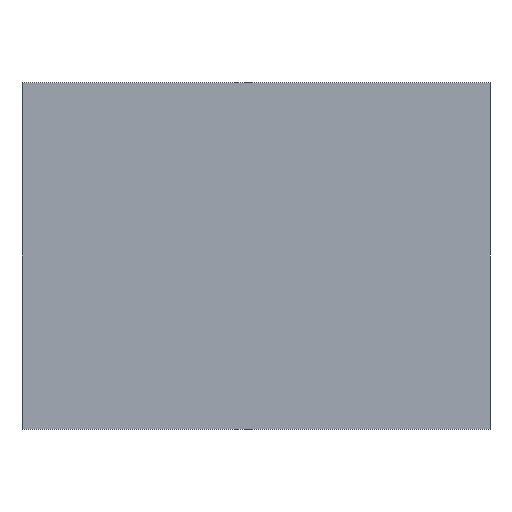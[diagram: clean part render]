
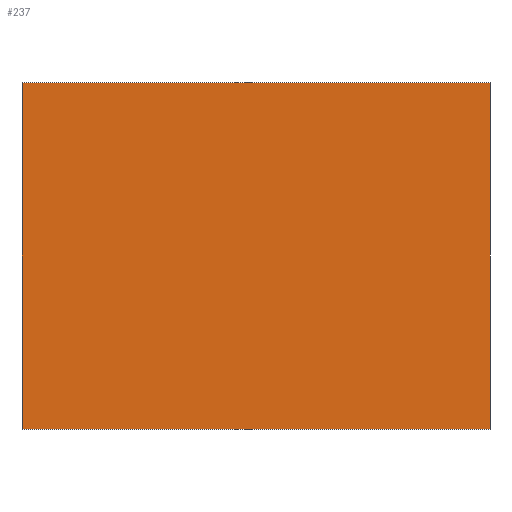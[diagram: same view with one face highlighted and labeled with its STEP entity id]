
A CAD part, front view. The second image highlights one B-rep face of the part: STEP entity #237.
In plain terms, the highlighted planar face has unit normal (0, -1, 0).
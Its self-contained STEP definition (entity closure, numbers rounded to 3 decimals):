
#24 = VERTEX_POINT('',#25);
#25 = CARTESIAN_POINT('',(-60.5,18.5,136.74));
#32 = PLANE('',#33);
#33 = AXIS2_PLACEMENT_3D('',#34,#35,#36);
#34 = CARTESIAN_POINT('',(-60.5,18.5,47.26));
#35 = DIRECTION('',(1.,0.,0.));
#36 = DIRECTION('',(0.,0.,1.));
#44 = PLANE('',#45);
#45 = AXIS2_PLACEMENT_3D('',#46,#47,#48);
#46 = CARTESIAN_POINT('',(-60.5,18.5,136.74));
#47 = DIRECTION('',(0.,0.,1.));
#48 = DIRECTION('',(1.,0.,0.));
#85 = VERTEX_POINT('',#86);
#86 = CARTESIAN_POINT('',(-60.5,18.5,47.26));
#100 = PLANE('',#101);
#101 = AXIS2_PLACEMENT_3D('',#102,#103,#104);
#102 = CARTESIAN_POINT('',(-60.5,18.5,47.26));
#103 = DIRECTION('',(0.,0.,1.));
#104 = DIRECTION('',(1.,0.,0.));
#112 = EDGE_CURVE('',#85,#24,#113,.T.);
#113 = SURFACE_CURVE('',#114,(#118,#125),.PCURVE_S1.);
#114 = LINE('',#115,#116);
#115 = CARTESIAN_POINT('',(-60.5,18.5,47.26));
#116 = VECTOR('',#117,1.);
#117 = DIRECTION('',(0.,0.,1.));
#118 = PCURVE('',#32,#119);
#119 = DEFINITIONAL_REPRESENTATION('',(#120),#124);
#120 = LINE('',#121,#122);
#121 = CARTESIAN_POINT('',(0.,0.));
#122 = VECTOR('',#123,1.);
#123 = DIRECTION('',(1.,0.));
#124 = ( GEOMETRIC_REPRESENTATION_CONTEXT(2) 
PARAMETRIC_REPRESENTATION_CONTEXT() REPRESENTATION_CONTEXT('2D SPACE',''
  ) );
#125 = PCURVE('',#126,#131);
#126 = PLANE('',#127);
#127 = AXIS2_PLACEMENT_3D('',#128,#129,#130);
#128 = CARTESIAN_POINT('',(-60.5,18.5,47.26));
#129 = DIRECTION('',(0.,1.,0.));
#130 = DIRECTION('',(0.,0.,1.));
#131 = DEFINITIONAL_REPRESENTATION('',(#132),#136);
#132 = LINE('',#133,#134);
#133 = CARTESIAN_POINT('',(0.,0.));
#134 = VECTOR('',#135,1.);
#135 = DIRECTION('',(1.,0.));
#136 = ( GEOMETRIC_REPRESENTATION_CONTEXT(2) 
PARAMETRIC_REPRESENTATION_CONTEXT() REPRESENTATION_CONTEXT('2D SPACE',''
  ) );
#141 = EDGE_CURVE('',#142,#144,#146,.T.);
#142 = VERTEX_POINT('',#143);
#143 = CARTESIAN_POINT('',(60.5,18.5,47.26));
#144 = VERTEX_POINT('',#145);
#145 = CARTESIAN_POINT('',(60.5,18.5,136.74));
#146 = SURFACE_CURVE('',#147,(#151,#163),.PCURVE_S1.);
#147 = LINE('',#148,#149);
#148 = CARTESIAN_POINT('',(60.5,18.5,47.26));
#149 = VECTOR('',#150,1.);
#150 = DIRECTION('',(0.,0.,1.));
#151 = PCURVE('',#152,#157);
#152 = PLANE('',#153);
#153 = AXIS2_PLACEMENT_3D('',#154,#155,#156);
#154 = CARTESIAN_POINT('',(60.5,18.5,47.26));
#155 = DIRECTION('',(1.,0.,0.));
#156 = DIRECTION('',(0.,0.,1.));
#157 = DEFINITIONAL_REPRESENTATION('',(#158),#162);
#158 = LINE('',#159,#160);
#159 = CARTESIAN_POINT('',(0.,0.));
#160 = VECTOR('',#161,1.);
#161 = DIRECTION('',(1.,0.));
#162 = ( GEOMETRIC_REPRESENTATION_CONTEXT(2) 
PARAMETRIC_REPRESENTATION_CONTEXT() REPRESENTATION_CONTEXT('2D SPACE',''
  ) );
#163 = PCURVE('',#126,#164);
#164 = DEFINITIONAL_REPRESENTATION('',(#165),#169);
#165 = LINE('',#166,#167);
#166 = CARTESIAN_POINT('',(0.,121.));
#167 = VECTOR('',#168,1.);
#168 = DIRECTION('',(1.,0.));
#169 = ( GEOMETRIC_REPRESENTATION_CONTEXT(2) 
PARAMETRIC_REPRESENTATION_CONTEXT() REPRESENTATION_CONTEXT('2D SPACE',''
  ) );
#237 = ADVANCED_FACE('',(#238),#126,.F.);
#238 = FACE_BOUND('',#239,.T.);
#239 = EDGE_LOOP('',(#240,#241,#262,#263));
#240 = ORIENTED_EDGE('',*,*,#141,.T.);
#241 = ORIENTED_EDGE('',*,*,#242,.F.);
#242 = EDGE_CURVE('',#24,#144,#243,.T.);
#243 = SURFACE_CURVE('',#244,(#248,#255),.PCURVE_S1.);
#244 = LINE('',#245,#246);
#245 = CARTESIAN_POINT('',(-60.5,18.5,136.74));
#246 = VECTOR('',#247,1.);
#247 = DIRECTION('',(1.,0.,0.));
#248 = PCURVE('',#126,#249);
#249 = DEFINITIONAL_REPRESENTATION('',(#250),#254);
#250 = LINE('',#251,#252);
#251 = CARTESIAN_POINT('',(89.48,0.));
#252 = VECTOR('',#253,1.);
#253 = DIRECTION('',(0.,1.));
#254 = ( GEOMETRIC_REPRESENTATION_CONTEXT(2) 
PARAMETRIC_REPRESENTATION_CONTEXT() REPRESENTATION_CONTEXT('2D SPACE',''
  ) );
#255 = PCURVE('',#44,#256);
#256 = DEFINITIONAL_REPRESENTATION('',(#257),#261);
#257 = LINE('',#258,#259);
#258 = CARTESIAN_POINT('',(0.,0.));
#259 = VECTOR('',#260,1.);
#260 = DIRECTION('',(1.,0.));
#261 = ( GEOMETRIC_REPRESENTATION_CONTEXT(2) 
PARAMETRIC_REPRESENTATION_CONTEXT() REPRESENTATION_CONTEXT('2D SPACE',''
  ) );
#262 = ORIENTED_EDGE('',*,*,#112,.F.);
#263 = ORIENTED_EDGE('',*,*,#264,.T.);
#264 = EDGE_CURVE('',#85,#142,#265,.T.);
#265 = SURFACE_CURVE('',#266,(#270,#277),.PCURVE_S1.);
#266 = LINE('',#267,#268);
#267 = CARTESIAN_POINT('',(-60.5,18.5,47.26));
#268 = VECTOR('',#269,1.);
#269 = DIRECTION('',(1.,0.,0.));
#270 = PCURVE('',#126,#271);
#271 = DEFINITIONAL_REPRESENTATION('',(#272),#276);
#272 = LINE('',#273,#274);
#273 = CARTESIAN_POINT('',(0.,0.));
#274 = VECTOR('',#275,1.);
#275 = DIRECTION('',(0.,1.));
#276 = ( GEOMETRIC_REPRESENTATION_CONTEXT(2) 
PARAMETRIC_REPRESENTATION_CONTEXT() REPRESENTATION_CONTEXT('2D SPACE',''
  ) );
#277 = PCURVE('',#100,#278);
#278 = DEFINITIONAL_REPRESENTATION('',(#279),#283);
#279 = LINE('',#280,#281);
#280 = CARTESIAN_POINT('',(0.,0.));
#281 = VECTOR('',#282,1.);
#282 = DIRECTION('',(1.,0.));
#283 = ( GEOMETRIC_REPRESENTATION_CONTEXT(2) 
PARAMETRIC_REPRESENTATION_CONTEXT() REPRESENTATION_CONTEXT('2D SPACE',''
  ) );
